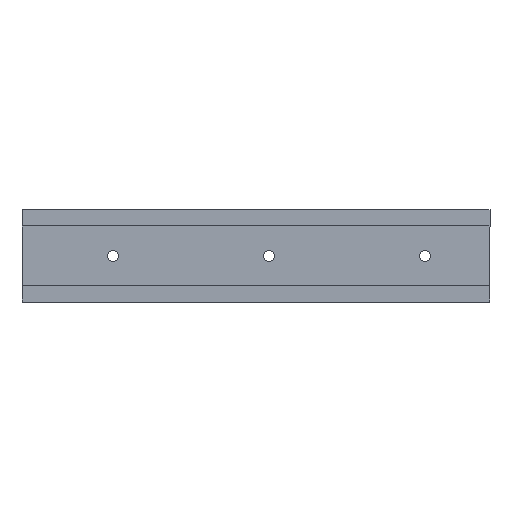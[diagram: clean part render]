
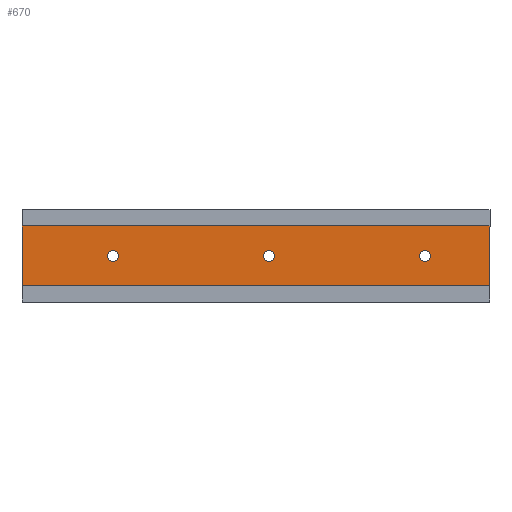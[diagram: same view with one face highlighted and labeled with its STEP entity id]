
A CAD part, top view. The second image highlights one B-rep face of the part: STEP entity #670.
In plain terms, the highlighted planar face has unit normal (0, 0, 1).
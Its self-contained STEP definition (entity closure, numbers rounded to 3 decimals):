
#4 = VERTEX_POINT ( 'NONE', #8846 ) ;
#201 = VECTOR ( 'NONE', #9517, 1000. ) ;
#274 = VERTEX_POINT ( 'NONE', #12989 ) ;
#306 = ORIENTED_EDGE ( 'NONE', *, *, #16741, .T. ) ;
#477 = DIRECTION ( 'NONE',  ( -1., 0., 0. ) ) ;
#600 = DIRECTION ( 'NONE',  ( 0., 0., 1. ) ) ;
#670 = ADVANCED_FACE ( 'NONE', ( #9132, #1881, #5632, #6793 ), #15457, .T. ) ;
#712 = VERTEX_POINT ( 'NONE', #3929 ) ;
#950 = CARTESIAN_POINT ( 'NONE',  ( 49.049, -14.635, 4.25 ) ) ;
#951 = DIRECTION ( 'NONE',  ( -1., 0., 0. ) ) ;
#1012 = CARTESIAN_POINT ( 'NONE',  ( 109.049, -14.635, 4.25 ) ) ;
#1639 = AXIS2_PLACEMENT_3D ( 'NONE', #10894, #600, #1892 ) ;
#1733 = EDGE_CURVE ( 'NONE', #4, #3384, #17924, .T. ) ;
#1881 = FACE_BOUND ( 'NONE', #13222, .T. ) ;
#1892 = DIRECTION ( 'NONE',  ( 1., 0., 0. ) ) ;
#2848 = CARTESIAN_POINT ( 'NONE',  ( 46.949, -14.635, 4.25 ) ) ;
#2985 = ORIENTED_EDGE ( 'NONE', *, *, #12257, .T. ) ;
#2986 = CIRCLE ( 'NONE', #6123, 2.1 ) ;
#3025 = CARTESIAN_POINT ( 'NONE',  ( -45.951, -3.135, 4.25 ) ) ;
#3245 = DIRECTION ( 'NONE',  ( -1., 0., 0. ) ) ;
#3384 = VERTEX_POINT ( 'NONE', #12530 ) ;
#3929 = CARTESIAN_POINT ( 'NONE',  ( 134.049, -3.135, 4.25 ) ) ;
#4563 = LINE ( 'NONE', #5084, #8329 ) ;
#4609 = DIRECTION ( 'NONE',  ( 0., 0., -1. ) ) ;
#4888 = VECTOR ( 'NONE', #16237, 1000. ) ;
#5084 = CARTESIAN_POINT ( 'NONE',  ( -45.951, -3.135, 4.25 ) ) ;
#5632 = FACE_BOUND ( 'NONE', #13181, .T. ) ;
#6015 = VECTOR ( 'NONE', #10592, 1000. ) ;
#6123 = AXIS2_PLACEMENT_3D ( 'NONE', #13760, #9253, #3245 ) ;
#6542 = DIRECTION ( 'NONE',  ( -1., 0., 0. ) ) ;
#6726 = AXIS2_PLACEMENT_3D ( 'NONE', #7895, #18353, #477 ) ;
#6730 = LINE ( 'NONE', #14012, #201 ) ;
#6793 = FACE_OUTER_BOUND ( 'NONE', #18990, .T. ) ;
#7237 = ORIENTED_EDGE ( 'NONE', *, *, #8360, .T. ) ;
#7250 = ORIENTED_EDGE ( 'NONE', *, *, #1733, .T. ) ;
#7324 = CIRCLE ( 'NONE', #8662, 2.1 ) ;
#7895 = CARTESIAN_POINT ( 'NONE',  ( -10.951, -14.635, 4.25 ) ) ;
#8292 = ORIENTED_EDGE ( 'NONE', *, *, #10589, .T. ) ;
#8329 = VECTOR ( 'NONE', #6542, 1000. ) ;
#8360 = EDGE_CURVE ( 'NONE', #18904, #274, #18061, .T. ) ;
#8662 = AXIS2_PLACEMENT_3D ( 'NONE', #1012, #12736, #951 ) ;
#8846 = CARTESIAN_POINT ( 'NONE',  ( -45.951, -26.135, 4.25 ) ) ;
#8932 = VERTEX_POINT ( 'NONE', #18554 ) ;
#9132 = FACE_BOUND ( 'NONE', #10716, .T. ) ;
#9253 = DIRECTION ( 'NONE',  ( 0., 0., -1. ) ) ;
#9517 = DIRECTION ( 'NONE',  ( 0., -1., 0. ) ) ;
#9960 = CARTESIAN_POINT ( 'NONE',  ( 111.149, -14.635, 4.25 ) ) ;
#10352 = EDGE_CURVE ( 'NONE', #14014, #12630, #17966, .T. ) ;
#10589 = EDGE_CURVE ( 'NONE', #19078, #4, #6730, .T. ) ;
#10592 = DIRECTION ( 'NONE',  ( 1., 0., 0. ) ) ;
#10716 = EDGE_LOOP ( 'NONE', ( #12773, #13169 ) ) ;
#10894 = CARTESIAN_POINT ( 'NONE',  ( 44.049, -14.635, 4.25 ) ) ;
#11698 = CARTESIAN_POINT ( 'NONE',  ( -8.851, -14.635, 4.25 ) ) ;
#11711 = EDGE_CURVE ( 'NONE', #274, #18904, #13532, .T. ) ;
#12257 = EDGE_CURVE ( 'NONE', #15658, #8932, #18549, .T. ) ;
#12448 = AXIS2_PLACEMENT_3D ( 'NONE', #13525, #16583, #17986 ) ;
#12520 = AXIS2_PLACEMENT_3D ( 'NONE', #17952, #4609, #16619 ) ;
#12530 = CARTESIAN_POINT ( 'NONE',  ( 134.049, -26.135, 4.25 ) ) ;
#12630 = VERTEX_POINT ( 'NONE', #11698 ) ;
#12736 = DIRECTION ( 'NONE',  ( 0., 0., -1. ) ) ;
#12773 = ORIENTED_EDGE ( 'NONE', *, *, #10352, .T. ) ;
#12777 = CARTESIAN_POINT ( 'NONE',  ( -13.051, -14.635, 4.25 ) ) ;
#12849 = ORIENTED_EDGE ( 'NONE', *, *, #14977, .T. ) ;
#12989 = CARTESIAN_POINT ( 'NONE',  ( 51.149, -14.635, 4.25 ) ) ;
#13164 = CARTESIAN_POINT ( 'NONE',  ( 134.049, -3.135, 4.25 ) ) ;
#13169 = ORIENTED_EDGE ( 'NONE', *, *, #17133, .T. ) ;
#13181 = EDGE_LOOP ( 'NONE', ( #13727, #2985 ) ) ;
#13222 = EDGE_LOOP ( 'NONE', ( #7237, #17310 ) ) ;
#13525 = CARTESIAN_POINT ( 'NONE',  ( 109.049, -14.635, 4.25 ) ) ;
#13532 = CIRCLE ( 'NONE', #12520, 2.1 ) ;
#13727 = ORIENTED_EDGE ( 'NONE', *, *, #18270, .T. ) ;
#13760 = CARTESIAN_POINT ( 'NONE',  ( -10.951, -14.635, 4.25 ) ) ;
#14012 = CARTESIAN_POINT ( 'NONE',  ( -45.951, -3.135, 4.25 ) ) ;
#14014 = VERTEX_POINT ( 'NONE', #12777 ) ;
#14242 = DIRECTION ( 'NONE',  ( 0., 0., -1. ) ) ;
#14703 = LINE ( 'NONE', #13164, #4888 ) ;
#14977 = EDGE_CURVE ( 'NONE', #712, #19078, #4563, .T. ) ;
#15457 = PLANE ( 'NONE',  #1639 ) ;
#15658 = VERTEX_POINT ( 'NONE', #9960 ) ;
#15722 = DIRECTION ( 'NONE',  ( -1., 0., 0. ) ) ;
#16237 = DIRECTION ( 'NONE',  ( 0., 1., 0. ) ) ;
#16583 = DIRECTION ( 'NONE',  ( 0., 0., -1. ) ) ;
#16619 = DIRECTION ( 'NONE',  ( -1., 0., 0. ) ) ;
#16661 = CARTESIAN_POINT ( 'NONE',  ( -45.951, -26.135, 4.25 ) ) ;
#16741 = EDGE_CURVE ( 'NONE', #3384, #712, #14703, .T. ) ;
#17133 = EDGE_CURVE ( 'NONE', #12630, #14014, #2986, .T. ) ;
#17310 = ORIENTED_EDGE ( 'NONE', *, *, #11711, .T. ) ;
#17924 = LINE ( 'NONE', #16661, #6015 ) ;
#17952 = CARTESIAN_POINT ( 'NONE',  ( 49.049, -14.635, 4.25 ) ) ;
#17966 = CIRCLE ( 'NONE', #6726, 2.1 ) ;
#17986 = DIRECTION ( 'NONE',  ( -1., 0., 0. ) ) ;
#18061 = CIRCLE ( 'NONE', #19006, 2.1 ) ;
#18270 = EDGE_CURVE ( 'NONE', #8932, #15658, #7324, .T. ) ;
#18353 = DIRECTION ( 'NONE',  ( 0., 0., -1. ) ) ;
#18549 = CIRCLE ( 'NONE', #12448, 2.1 ) ;
#18554 = CARTESIAN_POINT ( 'NONE',  ( 106.949, -14.635, 4.25 ) ) ;
#18904 = VERTEX_POINT ( 'NONE', #2848 ) ;
#18990 = EDGE_LOOP ( 'NONE', ( #306, #12849, #8292, #7250 ) ) ;
#19006 = AXIS2_PLACEMENT_3D ( 'NONE', #950, #14242, #15722 ) ;
#19078 = VERTEX_POINT ( 'NONE', #3025 ) ;
